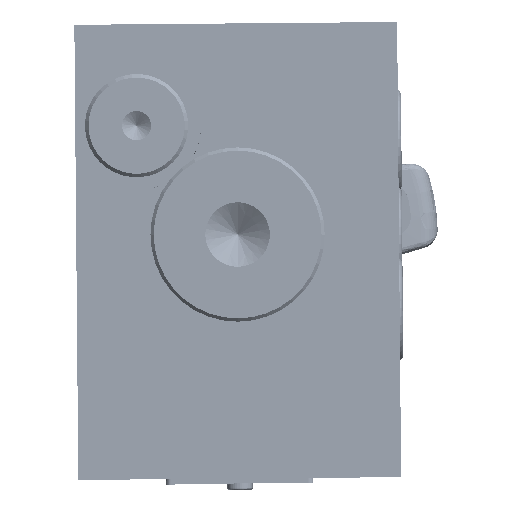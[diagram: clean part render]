
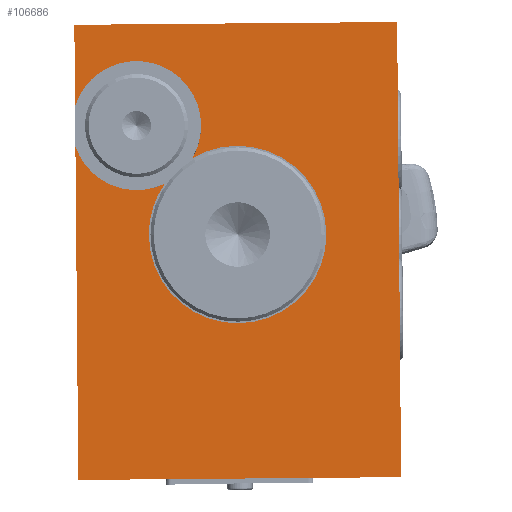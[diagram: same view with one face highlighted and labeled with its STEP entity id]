
A CAD part, left-side view. The second image highlights one B-rep face of the part: STEP entity #106686.
In plain terms, the highlighted planar face has unit normal (-1, 0, 0).
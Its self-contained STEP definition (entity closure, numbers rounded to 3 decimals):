
#1897 = EDGE_CURVE ( 'NONE', #86154, #91759, #79556, .T. ) ;
#5611 = DIRECTION ( 'NONE',  ( 0., 0., 1. ) ) ;
#7156 = CARTESIAN_POINT ( 'NONE',  ( 0., -17., 40.5 ) ) ;
#12647 = FACE_OUTER_BOUND ( 'NONE', #37625, .T. ) ;
#14005 = ORIENTED_EDGE ( 'NONE', *, *, #39877, .F. ) ;
#14815 = VERTEX_POINT ( 'NONE', #80926 ) ;
#15370 = DIRECTION ( 'NONE',  ( 0., -1., 0. ) ) ;
#16146 = LINE ( 'NONE', #109197, #122690 ) ;
#17988 = DIRECTION ( 'NONE',  ( -1., 0., 0. ) ) ;
#19803 = AXIS2_PLACEMENT_3D ( 'NONE', #133415, #27189, #121765 ) ;
#20235 = CARTESIAN_POINT ( 'NONE',  ( 0., -17., 40.5 ) ) ;
#21220 = EDGE_CURVE ( 'NONE', #37957, #25220, #109676, .T. ) ;
#22690 = CARTESIAN_POINT ( 'NONE',  ( 0., -17., 40.5 ) ) ;
#22800 = EDGE_CURVE ( 'NONE', #14815, #25220, #99934, .T. ) ;
#25220 = VERTEX_POINT ( 'NONE', #47056 ) ;
#27189 = DIRECTION ( 'NONE',  ( 1., 0., 0. ) ) ;
#28361 = CARTESIAN_POINT ( 'NONE',  ( 0., -11.891, 31.903 ) ) ;
#29661 = CIRCLE ( 'NONE', #19803, 13.75 ) ;
#31344 = CARTESIAN_POINT ( 'NONE',  ( 0., -32.7, 50. ) ) ;
#32838 = DIRECTION ( 'NONE',  ( 0., 0., -1. ) ) ;
#33134 = VECTOR ( 'NONE', #43897, 1000. ) ;
#36652 = VERTEX_POINT ( 'NONE', #115531 ) ;
#37625 = EDGE_LOOP ( 'NONE', ( #113682, #148784, #144418, #50186, #136672, #89256, #87174, #60466, #45999, #14005, #38259 ) ) ;
#37957 = VERTEX_POINT ( 'NONE', #130242 ) ;
#38259 = ORIENTED_EDGE ( 'NONE', *, *, #82063, .F. ) ;
#38929 = AXIS2_PLACEMENT_3D ( 'NONE', #7156, #17988, #5611 ) ;
#39877 = EDGE_CURVE ( 'NONE', #43562, #119651, #115224, .T. ) ;
#43562 = VERTEX_POINT ( 'NONE', #46340 ) ;
#43811 = CIRCLE ( 'NONE', #38929, 10. ) ;
#43897 = DIRECTION ( 'NONE',  ( 0., -1., 0. ) ) ;
#45999 = ORIENTED_EDGE ( 'NONE', *, *, #127705, .F. ) ;
#46340 = CARTESIAN_POINT ( 'NONE',  ( 0., -17., 30.5 ) ) ;
#46424 = CARTESIAN_POINT ( 'NONE',  ( 0., -32.7, 0. ) ) ;
#47056 = CARTESIAN_POINT ( 'NONE',  ( 0., -7.969, 36.205 ) ) ;
#50186 = ORIENTED_EDGE ( 'NONE', *, *, #21220, .F. ) ;
#52870 = DIRECTION ( 'NONE',  ( 0., 0., -1. ) ) ;
#53775 = CARTESIAN_POINT ( 'NONE',  ( 0., 37.8, 50. ) ) ;
#54394 = CARTESIAN_POINT ( 'NONE',  ( 0., 0., 25. ) ) ;
#56274 = AXIS2_PLACEMENT_3D ( 'NONE', #107538, #95151, #118436 ) ;
#59932 = CARTESIAN_POINT ( 'NONE',  ( 0., -32.7, 50. ) ) ;
#60466 = ORIENTED_EDGE ( 'NONE', *, *, #81609, .F. ) ;
#65458 = CARTESIAN_POINT ( 'NONE',  ( 0., -32.7, 50. ) ) ;
#67006 = LINE ( 'NONE', #31344, #108433 ) ;
#68765 = CARTESIAN_POINT ( 'NONE',  ( 0., -32.7, 50. ) ) ;
#69109 = DIRECTION ( 'NONE',  ( 0., 0., -1. ) ) ;
#70761 = DIRECTION ( 'NONE',  ( 0., 0., 1. ) ) ;
#72702 = AXIS2_PLACEMENT_3D ( 'NONE', #54394, #75368, #52870 ) ;
#75368 = DIRECTION ( 'NONE',  ( 1., 0., 0. ) ) ;
#79556 = LINE ( 'NONE', #152415, #33134 ) ;
#80157 = VERTEX_POINT ( 'NONE', #65458 ) ;
#80926 = CARTESIAN_POINT ( 'NONE',  ( 0., 0., 38.75 ) ) ;
#81502 = CARTESIAN_POINT ( 'NONE',  ( 0., 37.8, 50. ) ) ;
#81609 = EDGE_CURVE ( 'NONE', #80157, #91759, #67006, .T. ) ;
#82063 = EDGE_CURVE ( 'NONE', #99295, #43562, #43811, .T. ) ;
#82165 = EDGE_CURVE ( 'NONE', #97800, #86154, #117926, .T. ) ;
#85500 = CARTESIAN_POINT ( 'NONE',  ( 0., 37.8, 0. ) ) ;
#86154 = VERTEX_POINT ( 'NONE', #85500 ) ;
#87174 = ORIENTED_EDGE ( 'NONE', *, *, #1897, .T. ) ;
#89256 = ORIENTED_EDGE ( 'NONE', *, *, #82165, .T. ) ;
#91759 = VERTEX_POINT ( 'NONE', #46424 ) ;
#95151 = DIRECTION ( 'NONE',  ( 1., 0., 0. ) ) ;
#97262 = AXIS2_PLACEMENT_3D ( 'NONE', #20235, #114822, #113309 ) ;
#97800 = VERTEX_POINT ( 'NONE', #53775 ) ;
#99228 = PLANE ( 'NONE',  #120038 ) ;
#99295 = VERTEX_POINT ( 'NONE', #28361 ) ;
#99934 = CIRCLE ( 'NONE', #72702, 13.75 ) ;
#100368 = AXIS2_PLACEMENT_3D ( 'NONE', #22690, #105657, #70761 ) ;
#104383 = DIRECTION ( 'NONE',  ( 0., -1., 0. ) ) ;
#105657 = DIRECTION ( 'NONE',  ( -1., 0., 0. ) ) ;
#106686 = ADVANCED_FACE ( 'NONE', ( #12647 ), #99228, .F. ) ;
#107231 = DIRECTION ( 'NONE',  ( 0., 0., 1. ) ) ;
#107538 = CARTESIAN_POINT ( 'NONE',  ( 0., 0., 25. ) ) ;
#108433 = VECTOR ( 'NONE', #32838, 1000. ) ;
#109197 = CARTESIAN_POINT ( 'NONE',  ( 0., -32.7, 50. ) ) ;
#109270 = EDGE_CURVE ( 'NONE', #97800, #37957, #16146, .T. ) ;
#109676 = CIRCLE ( 'NONE', #97262, 10. ) ;
#112849 = VECTOR ( 'NONE', #104383, 1000. ) ;
#113309 = DIRECTION ( 'NONE',  ( 0., 0., 1. ) ) ;
#113682 = ORIENTED_EDGE ( 'NONE', *, *, #116247, .T. ) ;
#114822 = DIRECTION ( 'NONE',  ( -1., 0., 0. ) ) ;
#115224 = CIRCLE ( 'NONE', #100368, 10. ) ;
#115531 = CARTESIAN_POINT ( 'NONE',  ( 0., 0., 11.25 ) ) ;
#116247 = EDGE_CURVE ( 'NONE', #99295, #36652, #140492, .T. ) ;
#117926 = LINE ( 'NONE', #81502, #150297 ) ;
#118436 = DIRECTION ( 'NONE',  ( 0., 0., -1. ) ) ;
#119651 = VERTEX_POINT ( 'NONE', #142746 ) ;
#119803 = EDGE_CURVE ( 'NONE', #36652, #14815, #29661, .T. ) ;
#120038 = AXIS2_PLACEMENT_3D ( 'NONE', #59932, #145785, #107231 ) ;
#121765 = DIRECTION ( 'NONE',  ( 0., 0., -1. ) ) ;
#122690 = VECTOR ( 'NONE', #15370, 1000. ) ;
#127678 = LINE ( 'NONE', #68765, #112849 ) ;
#127705 = EDGE_CURVE ( 'NONE', #119651, #80157, #127678, .T. ) ;
#130242 = CARTESIAN_POINT ( 'NONE',  ( 0., -13.878, 50. ) ) ;
#133415 = CARTESIAN_POINT ( 'NONE',  ( 0., 0., 25. ) ) ;
#136672 = ORIENTED_EDGE ( 'NONE', *, *, #109270, .F. ) ;
#140492 = CIRCLE ( 'NONE', #56274, 13.75 ) ;
#142746 = CARTESIAN_POINT ( 'NONE',  ( 0., -20.122, 50. ) ) ;
#144418 = ORIENTED_EDGE ( 'NONE', *, *, #22800, .T. ) ;
#145785 = DIRECTION ( 'NONE',  ( 1., 0., 0. ) ) ;
#148784 = ORIENTED_EDGE ( 'NONE', *, *, #119803, .T. ) ;
#150297 = VECTOR ( 'NONE', #69109, 1000. ) ;
#152415 = CARTESIAN_POINT ( 'NONE',  ( 0., -32.7, 0. ) ) ;
